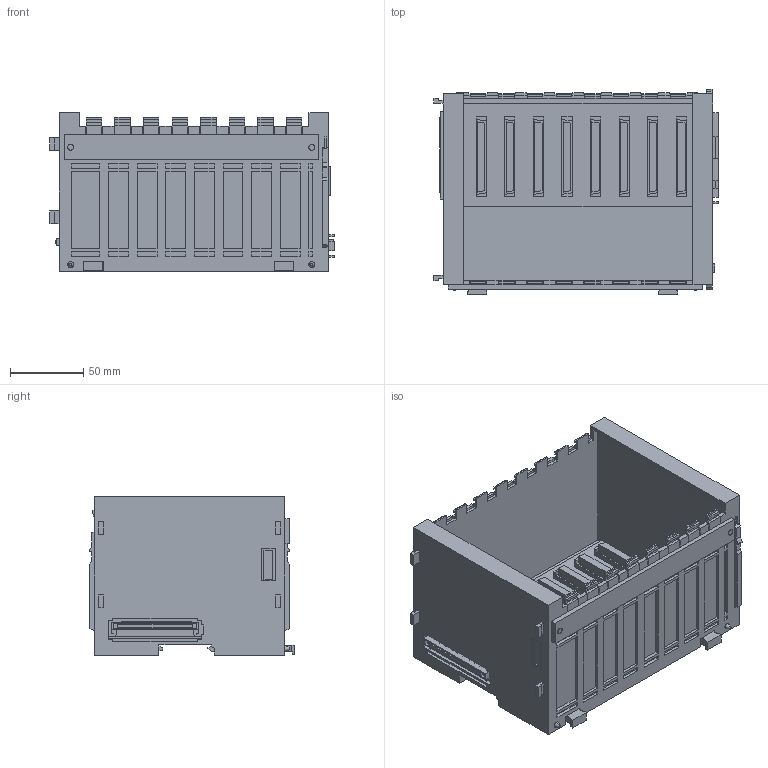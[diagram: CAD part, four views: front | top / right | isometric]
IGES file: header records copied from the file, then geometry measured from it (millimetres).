
Start section: SolidWorks IGES file using analytic representation for surfaces
Global section: file name: D:\YASKAWA\jepmc_bub3008_e.IGS; native system: SolidWorks 2006 by SolidWorks Corporation; preprocessor: SolidWorks 2006 by SolidWorks Corporation; author: yamanouchi; date: 120907.132018; units: millimetre
Bounding box: 193.7 x 140 x 108 mm (x, y, z)
Surface area: 207992.8 mm2 (no closed solid volume)
Topology: 0 solids, 0 shells, 1059 faces, 5924 edges, 5924 vertices
Faces by surface type: bspline 1047, revolution 12
